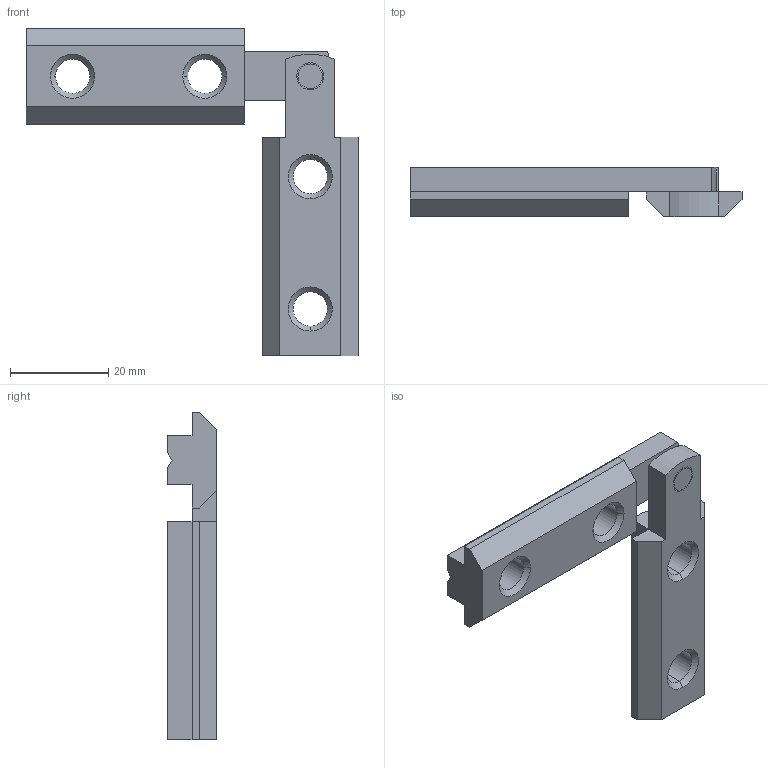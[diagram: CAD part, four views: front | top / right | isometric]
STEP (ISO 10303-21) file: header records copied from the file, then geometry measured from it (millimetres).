
FILE_DESCRIPTION (( 'STEP AP203' ), '1' );
FILE_NAME ('5353full.STEP', '2016-10-05T09:49:35', ( 'RosInstal-MKM' ), ( '' ), 'SwSTEP 2.0', 'SolidWorks 2014', '' );
FILE_SCHEMA (( 'CONFIG_CONTROL_DESIGN' ));
Length unit declared in the file: millimetre
Products named in the file (4): 5353full; 5353(2); 5353(1); klepka5353
Assembly tree (3 placements, depth 2):
  5353full
    5353(2)
    5353(1)
    klepka5353
Bounding box: 67.75 x 10 x 66.75 mm (x, y, z)
Volume: 11989.8 mm3; surface area: 7213.4 mm2
Topology: 3 solids, 3 shells, 86 faces, 207 edges, 122 vertices
Faces by surface type: plane 48, cone 20, cylinder 18
Entity records: 2882 total; most frequent: CARTESIAN_POINT 487, DIRECTION 426, ORIENTED_EDGE 414, EDGE_CURVE 207, AXIS2_PLACEMENT_3D 149, LINE 128, VECTOR 128, VERTEX_POINT 122
